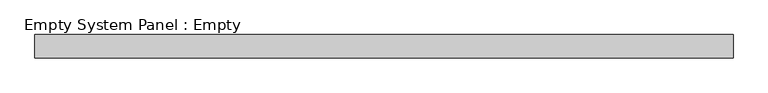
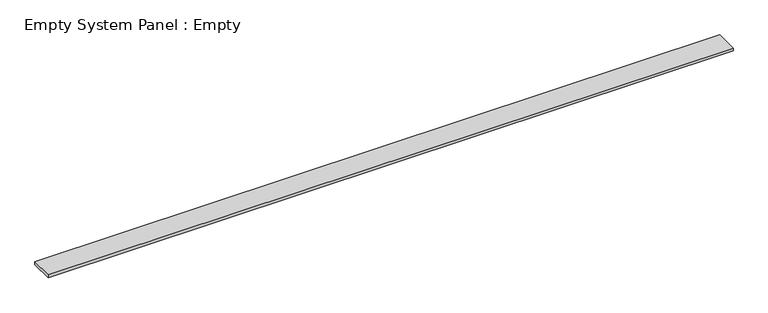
"""IFC4 building model written with IfcOpenShell, lengths in millimetres: plate geometry, Empty System Panel : Empty."""

import ifcopenshell
import ifcopenshell.guid

model = None  # the IFC model being written
_history = None  # IfcOwnerHistory: only IFC2X3 demands one
_inside = {}  # id of a spatial element -> (the spatial element, [elements in it])
_under = {}  # id of a project, library or spatial element -> (it, [spatial elements below it])
_declared = {}  # id of a project -> (the project, [libraries it declares])
_typed = {}  # id of a type object -> (the type object, [elements of that type])
_made_of = {}  # id of a material, layer set ... -> (it, [elements and type objects made of it])


def new_model(schema):
    """Start an empty IFC model of exactly this schema.

    Asked for "IFC4X3", IfcOpenShell would pick the latest addendum, in which some entities
    have other attributes; the version numbers below select the first issue.
    IFC2X3 requires an IfcOwnerHistory on every rooted entity: one is made here for all.
    """
    global model, _history
    if schema == "IFC4X3":
        model = ifcopenshell.file(schema_version=(4, 3, 0, 0))
    else:
        model = ifcopenshell.file(schema=schema)
    _inside.clear()
    _under.clear()
    _declared.clear()
    _typed.clear()
    _made_of.clear()
    _history = None
    if model.schema == "IFC2X3":
        org = make("IfcOrganization", Name="unknown")
        user = make(
            "IfcPersonAndOrganization",
            ThePerson=make("IfcPerson", FamilyName="unknown"),
            TheOrganization=org,
        )
        app = make(
            "IfcApplication",
            ApplicationDeveloper=org,
            Version="unknown",
            ApplicationFullName="unknown",
            ApplicationIdentifier="unknown",
        )
        _history = make(
            "IfcOwnerHistory",
            OwningUser=user,
            OwningApplication=app,
            ChangeAction="ADDED",
            CreationDate=0,
        )
    return model


def make(cls, **values):
    """One entity of the class cls with the attributes given. An attribute that is None is left unset."""
    return model.create_entity(
        cls, **{name: value for name, value in values.items() if value is not None}
    )


def rooted(cls, **values):
    """An entity with a GlobalId (a new one), such as an element, a storey or a relation."""
    return make(cls, GlobalId=ifcopenshell.guid.new(), OwnerHistory=_history, **values)


def si_unit(unit_type, name, prefix=None):
    """IfcSIUnit, for example si_unit("LENGTHUNIT", "METRE", prefix="MILLI")."""
    return make("IfcSIUnit", UnitType=unit_type, Prefix=prefix, Name=name)


def assignment(units):
    """IfcUnitAssignment: the units of a project."""
    return None if units is None else make("IfcUnitAssignment", Units=units)


def point(xyz):
    """IfcCartesianPoint."""
    return None if xyz is None else make("IfcCartesianPoint", Coordinates=xyz)


def direction(xyz):
    """IfcDirection."""
    return None if xyz is None else make("IfcDirection", DirectionRatios=xyz)


def frame(location, z_axis=None, x_axis=None):
    """IfcAxis2Placement3D, a coordinate frame: its origin and axes. An axis left out is left unset."""
    return make(
        "IfcAxis2Placement3D",
        Location=point(location),
        Axis=direction(z_axis),
        RefDirection=direction(x_axis),
    )


def origin():
    """The frame at (0, 0, 0) with its axes left unset."""
    return frame((0.0, 0.0, 0.0))


def origin_with_axes():
    """The frame at (0, 0, 0) with the z axis (0, 0, 1) and the x axis (1, 0, 0) written out."""
    return frame((0.0, 0.0, 0.0), z_axis=(0.0, 0.0, 1.0), x_axis=(1.0, 0.0, 0.0))


def place(relative_to, where):
    """IfcLocalPlacement: puts the frame where relative to a parent placement (None: the world)."""
    return make(
        "IfcLocalPlacement", PlacementRelTo=relative_to, RelativePlacement=where
    )


def context(
    kind, dimensions, precision=None, world=None, true_north=None, identifier=None
):
    """IfcGeometricRepresentationContext, for example the 3D "Model" context."""
    return make(
        "IfcGeometricRepresentationContext",
        ContextIdentifier=identifier,
        ContextType=kind,
        CoordinateSpaceDimension=dimensions,
        Precision=precision,
        WorldCoordinateSystem=world,
        TrueNorth=true_north,
    )


def project(units=None, contexts=None):
    """IfcProject with its units and contexts."""
    return rooted(
        "IfcProject",
        Name="project",
        RepresentationContexts=contexts,
        UnitsInContext=assignment(units),
    )


def spatial(cls, under=None, at=None, **own):
    """A site, building, storey or space (cls), placed at a placement, below another one or the project."""
    s = rooted(cls, ObjectPlacement=at, **own)
    if under is not None:
        _under.setdefault(under.id(), (under, []))[1].append(s)
    return s


def polyline(points):
    """IfcPolyline through the points."""
    return make("IfcPolyline", Points=[point(p) for p in points])


def outline(outer, holes=None, kind="AREA"):
    """IfcArbitraryClosedProfileDef: a profile drawn as a closed curve; with holes, ...WithVoids."""
    if holes is None:
        return make("IfcArbitraryClosedProfileDef", ProfileType=kind, OuterCurve=outer)
    return make(
        "IfcArbitraryProfileDefWithVoids",
        ProfileType=kind,
        OuterCurve=outer,
        InnerCurves=holes,
    )


def extrude(swept, where, along, depth):
    """IfcExtrudedAreaSolid: the profile swept, set in the frame where, extruded along a direction by depth."""
    return make(
        "IfcExtrudedAreaSolid",
        SweptArea=swept,
        Position=where,
        ExtrudedDirection=direction(along),
        Depth=depth,
    )


def shape(context_of_items, identifier, shape_type, items):
    """IfcShapeRepresentation: the items that make up one representation, for example the "Body"."""
    return make(
        "IfcShapeRepresentation",
        ContextOfItems=context_of_items,
        RepresentationIdentifier=identifier,
        RepresentationType=shape_type,
        Items=items,
    )


def source(mapping_origin, context_of_items, identifier, shape_type, items):
    """IfcRepresentationMap: a shape defined once, which mapped items show again and again."""
    return make(
        "IfcRepresentationMap",
        MappingOrigin=mapping_origin,
        MappedRepresentation=shape(context_of_items, identifier, shape_type, items),
    )


def transform(
    local_origin,
    x_axis=None,
    y_axis=None,
    z_axis=None,
    scale=None,
    scale2=None,
    scale3=None,
    uniform=True,
):
    """IfcCartesianTransformationOperator3D, or its non-uniform kind. x_axis, y_axis, z_axis: its Axis1, 2, 3."""
    if uniform:
        return make(
            "IfcCartesianTransformationOperator3D",
            Axis1=direction(x_axis),
            Axis2=direction(y_axis),
            LocalOrigin=point(local_origin),
            Scale=scale,
            Axis3=direction(z_axis),
        )
    return make(
        "IfcCartesianTransformationOperator3DnonUniform",
        Axis1=direction(x_axis),
        Axis2=direction(y_axis),
        LocalOrigin=point(local_origin),
        Scale=scale,
        Axis3=direction(z_axis),
        Scale2=scale2,
        Scale3=scale3,
    )


def mapped(mapping_source, mapping_target):
    """IfcMappedItem: shows the shape of a source again, moved by a transform."""
    return make(
        "IfcMappedItem", MappingSource=mapping_source, MappingTarget=mapping_target
    )


def made_of(thing, what):
    """Note that an element or type object is made of a material, layer set ...; save() writes the relation."""
    if what is not None:
        _made_of.setdefault(what.id(), (what, []))[1].append(thing)
    return thing


def element(
    cls,
    number,
    at=None,
    inside=None,
    cuts=None,
    type_object=None,
    material=None,
    context=None,
    identifier="Body",
    shape_type=None,
    held_by="IfcProductDefinitionShape",
    body=None,
    shapes=None,
    **own,
):
    """One element of the class cls, such as IfcWall. Its Tag is "e" and its number.

    at: its placement. inside: the storey or other place that contains it. cuts: it is an
    opening in that element (IfcRelVoidsElement). A single representation is given by context,
    identifier, shape_type and body (its items); several are given by shapes. held_by: the class
    of the entity that holds the representations. save() writes the other relations.
    """
    e = rooted(cls, Tag="e%d" % number, ObjectPlacement=at, **own)
    if body is not None:
        shapes = [shape(context, identifier, shape_type, body)]
    if shapes is not None:
        e.Representation = make(held_by, Representations=shapes)
    if inside is not None:
        _inside.setdefault(inside.id(), (inside, []))[1].append(e)
    if cuts is not None:
        rooted(
            "IfcRelVoidsElement", RelatingBuildingElement=cuts, RelatedOpeningElement=e
        )
    if type_object is not None:
        _typed.setdefault(type_object.id(), (type_object, []))[1].append(e)
    return made_of(e, material)


def aggregate(whole, parts):
    """IfcRelAggregates: a whole, such as a stair, and the parts it consists of."""
    return rooted("IfcRelAggregates", RelatingObject=whole, RelatedObjects=parts)


def save(model, path):
    """Write the relations noted so far, then the file.

    IfcRelAggregates (storeys below a building ...), IfcRelContainedInSpatialStructure (elements
    in a storey), IfcRelDefinesByType, IfcRelAssociatesMaterial and IfcRelDeclares: one each for
    every whole, place, type object, material and project.
    """
    for whole, parts in _under.values():
        aggregate(whole, parts)
    for where, things in _inside.values():
        rooted(
            "IfcRelContainedInSpatialStructure",
            RelatedElements=things,
            RelatingStructure=where,
        )
    for kind, things in _typed.values():
        rooted("IfcRelDefinesByType", RelatedObjects=things, RelatingType=kind)
    for what, things in _made_of.values():
        rooted("IfcRelAssociatesMaterial", RelatedObjects=things, RelatingMaterial=what)
    for by, libraries in _declared.values():
        rooted("IfcRelDeclares", RelatingContext=by, RelatedDefinitions=libraries)
    model.write(path)


def empty_system_panel_empty_a36746fc(model_context):
    return source(origin(), model_context, "Body", "SweptSolid", [
        extrude(outline(polyline([(1500.0, 50.0), (-1500.0, 50.0), (-1500.0, 150.0), (1500.0, 150.0), (1500.0, 50.0)])), origin_with_axes(), (0.0, 0.0, 1.0), 12.7419037),
    ])


if __name__ == "__main__":
    model = new_model("IFC4")
    model_context = context("Model", 3, world=origin())
    ifc_project = project(units=[si_unit("LENGTHUNIT", "METRE", prefix="MILLI")], contexts=[model_context])
    site = spatial("IfcSite", under=ifc_project)
    building = spatial("IfcBuilding", under=site)
    placement = place(None, origin())
    empty_system_panel_empty_shape = empty_system_panel_empty_a36746fc(model_context)
    element("IfcPlate", 1, ObjectType="Empty System Panel : Empty", at=placement, inside=building, context=model_context, shape_type="MappedRepresentation", body=[
        mapped(empty_system_panel_empty_shape, transform((0.0, 0.0, 0.0), x_axis=(1.0, 0.0, 0.0), y_axis=(0.0, 1.0, 0.0), z_axis=(0.0, 0.0, 1.0))),
    ])
    save(model, "model.ifc")
